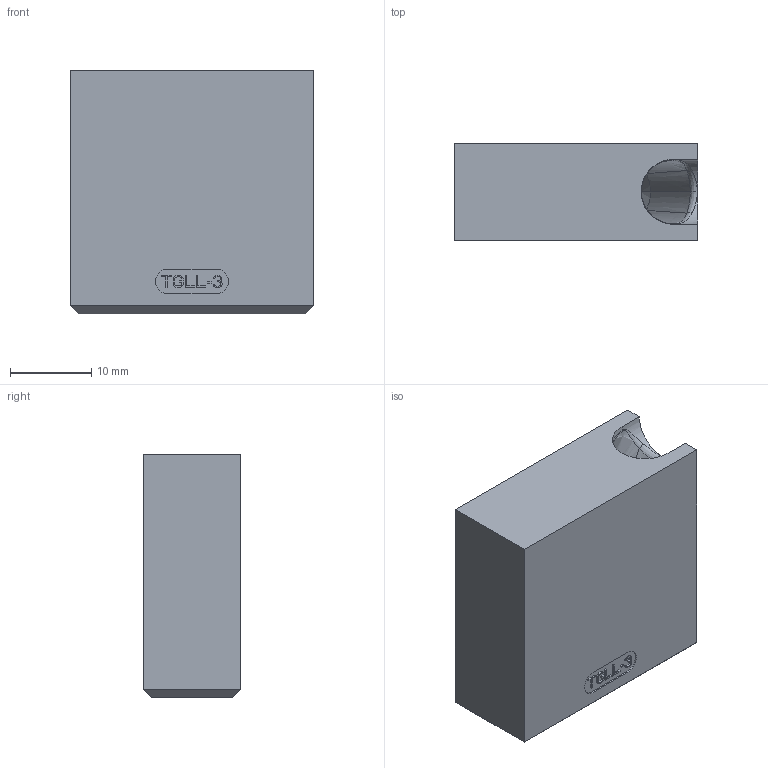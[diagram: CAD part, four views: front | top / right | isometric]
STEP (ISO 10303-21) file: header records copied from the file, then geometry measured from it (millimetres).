
FILE_DESCRIPTION((''),'2;1');
FILE_NAME('TGLL-3','2018-10-08T',('gsawatzky'),(''),'CREO PARAMETRIC BY PTC INC, 2016260','CREO PARAMETRIC BY PTC INC, 2016260','');
FILE_SCHEMA(('AUTOMOTIVE_DESIGN { 1 0 10303 214 1 1 1 1 }'));
Length unit declared in the file: millimetre
Products named in the file (1): TGLL-3
Bounding box: 30 x 12 x 30 mm (x, y, z)
Volume: 9447.5 mm3; surface area: 4208.3 mm2
Topology: 1 solids, 4 shells, 228 faces, 626 edges, 402 vertices
Faces by surface type: plane 166, bspline 36, cylinder 11, sphere 7, cone 4, torus 2, extrusion 2
Entity records: 12162 total; most frequent: CARTESIAN_POINT 4654, ORIENTED_EDGE 1218, DIRECTION 971, PRESENTATION_STYLE_ASSIGNMENT 619, STYLED_ITEM 619, CURVE_STYLE 615, EDGE_CURVE 615, VECTOR 487
